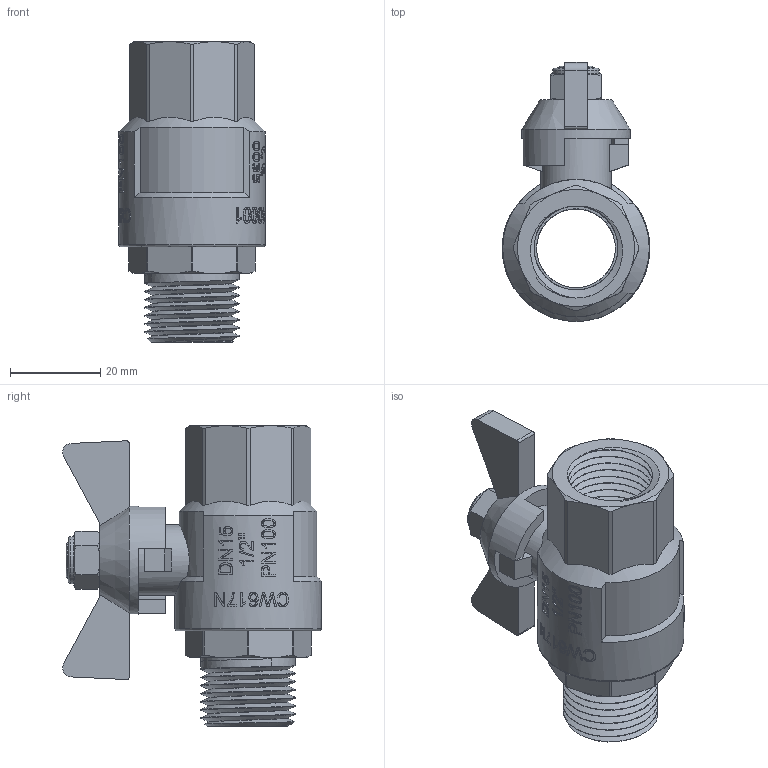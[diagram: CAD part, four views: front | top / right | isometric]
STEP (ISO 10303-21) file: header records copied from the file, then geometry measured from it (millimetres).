
FILE_DESCRIPTION(/* description */ (''),/* implementation_level */ '2;1');
FILE_NAME(/* name */ 'F:\Артём\00000\Работа удаленка\0\B\VT.318.N.04.stp',/* time_stamp */ '2021-02-03T16:22:39+03:00',/* author */ ('almis'),/* organization */ (''),/* preprocessor_version */ 'ST-DEVELOPER v18',/* originating_system */ 'Autodesk Inventor 2020',/* authorisation */ '');
FILE_SCHEMA (('AUTOMOTIVE_DESIGN { 1 0 10303 214 3 1 1 }'));
Length unit declared in the file: millimetre
Products named in the file (1): VT.314_ВВ_1%2
Bounding box: 32.7 x 57.42 x 66.7 mm (x, y, z)
Volume: 30762.1 mm3; surface area: 16190.1 mm2
Topology: 1 solids, 1 shells, 590 faces, 1578 edges, 1043 vertices
Faces by surface type: bspline 229, plane 213, cylinder 119, cone 25, torus 4
Full cylindrical faces by diameter (mm): 8 x1, 10.392 x1, 15.676 x1, 17.5 x8, 18.6 x9, 21 x7, 22.2 x8, 24 x1, 32.5 x1
Entity records: 28506 total; most frequent: CARTESIAN_POINT 15364, ORIENTED_EDGE 3156, DIRECTION 1974, EDGE_CURVE 1578, VERTEX_POINT 1043, LINE 710, VECTOR 710, EDGE_LOOP 649
